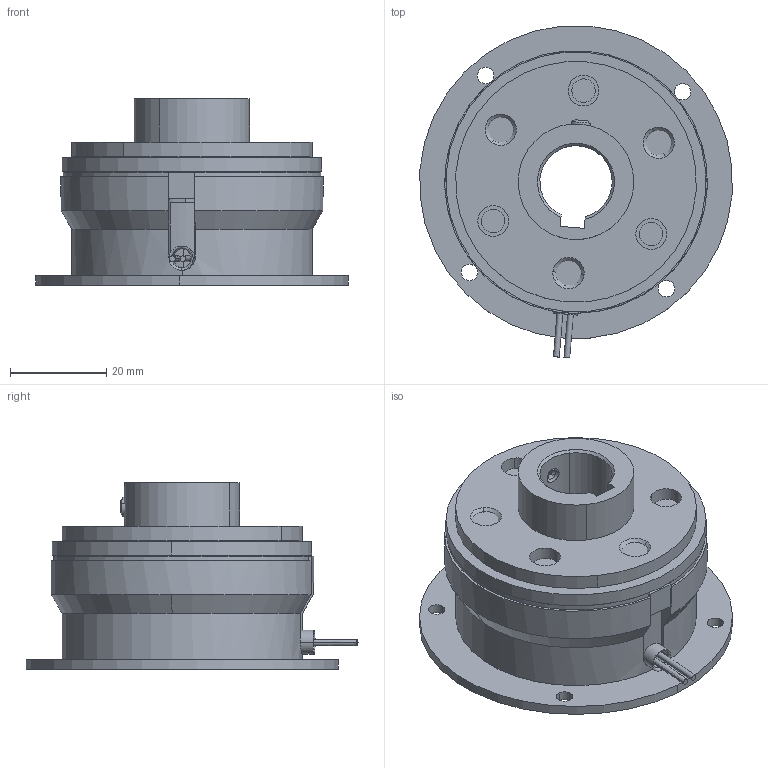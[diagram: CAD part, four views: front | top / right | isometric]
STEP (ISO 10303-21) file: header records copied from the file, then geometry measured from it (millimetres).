
FILE_DESCRIPTION((''),'2;1');
FILE_NAME('G:\Konstruktion\Datenkonvertierung\step\14.110.05.101.stp','2004-01-30T09:33:47',('schöttelndreier'),(''),'Autodesk Inventor 8','Autodesk Inventor 8','');
FILE_SCHEMA(('AUTOMOTIVE_DESIGN { 1 0 10303 214 1 1 1 1 }'));
Length unit declared in the file: millimetre
Products named in the file (15): 14.110.05.101; 14.110.05.100-001 dxf; 14.100.05.994-105 dxf; 14.110.05.991-001 dxf; Spule_05 dxf; Reibbelag_05 dxf; Masse Bremse 05; 14.100.05.001-001; 14.100.05.003-001; 14.100.05.993-001; 14.102.05-53.002; Niet1; 14.100.05.993-200; Niet2; DIN 916  (Regelgewinde) M4  x  5
Assembly tree (18 placements, depth 4):
  14.110.05.101
    14.110.05.100-001 dxf
      14.100.05.994-105 dxf
      14.110.05.991-001 dxf
      Spule_05 dxf
      Reibbelag_05 dxf
      Masse Bremse 05
    14.100.05.001-001
      14.100.05.003-001
        14.100.05.993-001
        14.102.05-53.002
        Niet1  x3
      14.100.05.993-200
      Niet2  x3
      DIN 916  (Regelgewinde) M4  x  5
Bounding box: 64.78 x 68.91 x 38.7 mm (x, y, z)
Volume: 49894.7 mm3; surface area: 42141.9 mm2
Topology: 15 solids, 15 shells, 252 faces, 582 edges, 370 vertices
Faces by surface type: cylinder 132, plane 70, cone 43, bspline 5, torus 2
Entity records: 7150 total; most frequent: CARTESIAN_POINT 1429, DIRECTION 1244, ORIENTED_EDGE 1028, AXIS2_PLACEMENT_3D 515, EDGE_CURVE 514, VERTEX_POINT 330, EDGE_LOOP 288, CIRCLE 271
